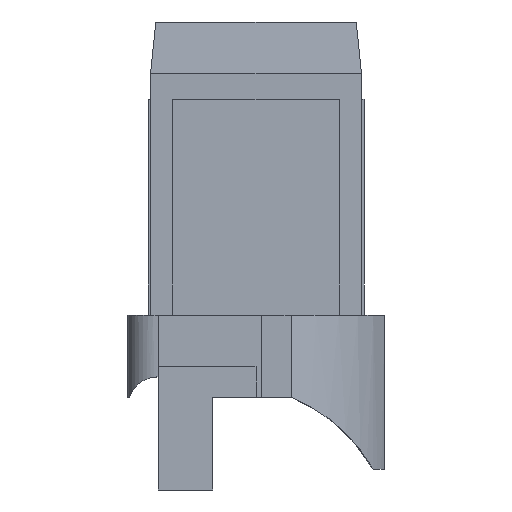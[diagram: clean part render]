
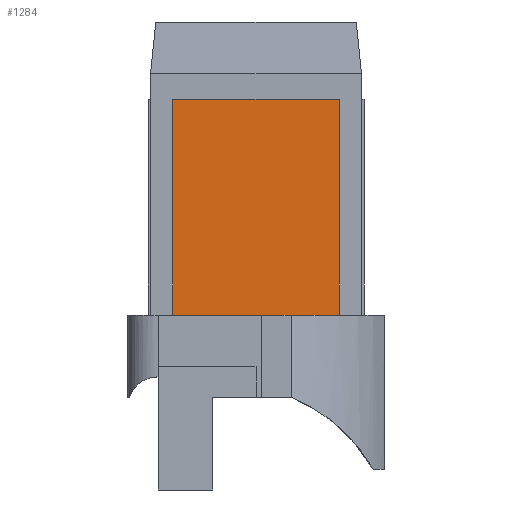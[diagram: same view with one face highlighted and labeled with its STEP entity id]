
A CAD part, left-side view. The second image highlights one B-rep face of the part: STEP entity #1284.
In plain terms, the highlighted planar face has unit normal (-1, 0, 0).
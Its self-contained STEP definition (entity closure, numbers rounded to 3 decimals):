
#68 = AXIS2_PLACEMENT_3D ( 'NONE', #1282, #2877, #1505 ) ;
#84 = ORIENTED_EDGE ( 'NONE', *, *, #1811, .T. ) ;
#108 = ORIENTED_EDGE ( 'NONE', *, *, #2563, .T. ) ;
#148 = CARTESIAN_POINT ( 'NONE',  ( -10.5, -8.1, 0. ) ) ;
#231 = CARTESIAN_POINT ( 'NONE',  ( -10.5, 8.1, 21. ) ) ;
#373 = LINE ( 'NONE', #2535, #2641 ) ;
#699 = VERTEX_POINT ( 'NONE', #148 ) ;
#746 = VECTOR ( 'NONE', #2391, 1000. ) ;
#751 = LINE ( 'NONE', #1749, #2463 ) ;
#817 = LINE ( 'NONE', #2162, #746 ) ;
#848 = VERTEX_POINT ( 'NONE', #231 ) ;
#889 = VERTEX_POINT ( 'NONE', #1380 ) ;
#949 = DIRECTION ( 'NONE',  ( 0., 0., -1. ) ) ;
#1103 = VECTOR ( 'NONE', #949, 1000. ) ;
#1113 = ORIENTED_EDGE ( 'NONE', *, *, #1571, .T. ) ;
#1282 = CARTESIAN_POINT ( 'NONE',  ( -10.5, 0., 0. ) ) ;
#1284 = ADVANCED_FACE ( 'NONE', ( #2760 ), #1940, .F. ) ;
#1380 = CARTESIAN_POINT ( 'NONE',  ( -10.5, 8.1, 0. ) ) ;
#1397 = EDGE_CURVE ( 'NONE', #699, #1954, #817, .T. ) ;
#1505 = DIRECTION ( 'NONE',  ( 0., 0., 1. ) ) ;
#1571 = EDGE_CURVE ( 'NONE', #889, #699, #373, .T. ) ;
#1663 = CARTESIAN_POINT ( 'NONE',  ( -10.5, -8.1, 21. ) ) ;
#1691 = LINE ( 'NONE', #2284, #1103 ) ;
#1749 = CARTESIAN_POINT ( 'NONE',  ( -10.5, 8.1, 21. ) ) ;
#1811 = EDGE_CURVE ( 'NONE', #848, #889, #1691, .T. ) ;
#1940 = PLANE ( 'NONE',  #68 ) ;
#1954 = VERTEX_POINT ( 'NONE', #1663 ) ;
#2162 = CARTESIAN_POINT ( 'NONE',  ( -10.5, -8.1, 0. ) ) ;
#2284 = CARTESIAN_POINT ( 'NONE',  ( -10.5, 8.1, 0. ) ) ;
#2288 = ORIENTED_EDGE ( 'NONE', *, *, #1397, .T. ) ;
#2391 = DIRECTION ( 'NONE',  ( 0., 0., 1. ) ) ;
#2463 = VECTOR ( 'NONE', #2669, 1000. ) ;
#2535 = CARTESIAN_POINT ( 'NONE',  ( -10.5, 8.1, 0. ) ) ;
#2563 = EDGE_CURVE ( 'NONE', #1954, #848, #751, .T. ) ;
#2641 = VECTOR ( 'NONE', #2765, 1000. ) ;
#2669 = DIRECTION ( 'NONE',  ( 0., 1., 0. ) ) ;
#2671 = EDGE_LOOP ( 'NONE', ( #84, #1113, #2288, #108 ) ) ;
#2760 = FACE_OUTER_BOUND ( 'NONE', #2671, .T. ) ;
#2765 = DIRECTION ( 'NONE',  ( 0., -1., 0. ) ) ;
#2877 = DIRECTION ( 'NONE',  ( 1., 0., 0. ) ) ;
